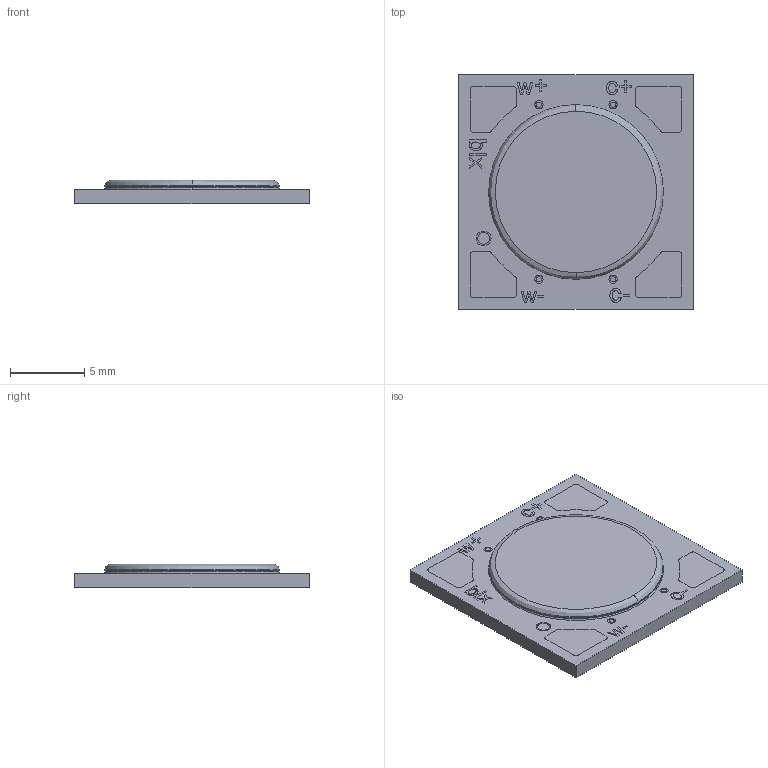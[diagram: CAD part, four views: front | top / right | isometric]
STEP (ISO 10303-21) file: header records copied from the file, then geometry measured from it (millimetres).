
FILE_DESCRIPTION (( 'STEP AP214' ), '1' );
FILE_NAME ('NTW9-G3 Assembly.STEP', '2024-12-26T08:52:36', ( '' ), ( '' ), 'SwSTEP 2.0', 'SolidWorks 2018', '' );
FILE_SCHEMA (( 'AUTOMOTIVE_DESIGN' ));
Length unit declared in the file: millimetre
Products named in the file (1): NTW9-G3 Assembly
Bounding box: 15.85 x 15.85 x 1.6 mm (x, y, z)
Volume: 315 mm3; surface area: 581.8 mm2
Topology: 1 solids, 1 shells, 191 faces, 480 edges, 318 vertices
Faces by surface type: plane 132, cylinder 44, bspline 9, torus 6
Entity records: 7952 total; most frequent: CARTESIAN_POINT 1235, ORIENTED_EDGE 960, DIRECTION 916, EDGE_CURVE 480, LINE 342, VECTOR 342, VERTEX_POINT 318, AXIS2_PLACEMENT_3D 287
